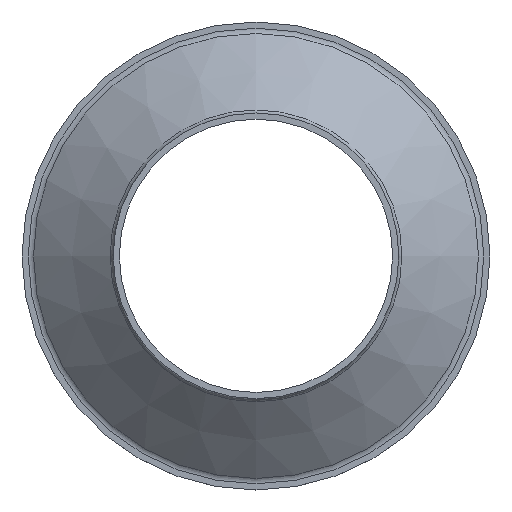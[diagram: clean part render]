
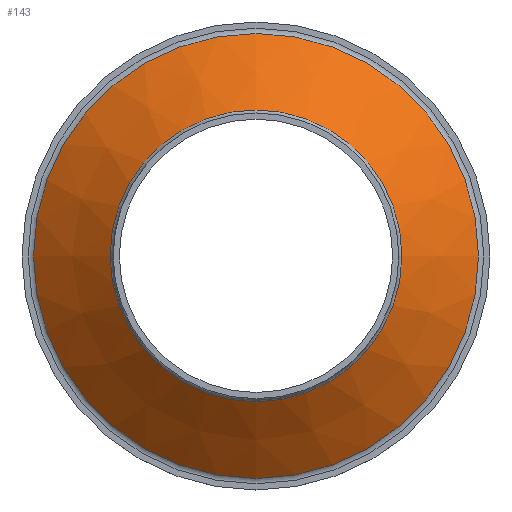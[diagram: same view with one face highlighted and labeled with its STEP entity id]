
A CAD part, top view. The second image highlights one B-rep face of the part: STEP entity #143.
In plain terms, the highlighted conical face has half-angle 50.225 degrees and reference radius 17.61 mm.
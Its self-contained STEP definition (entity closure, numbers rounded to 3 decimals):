
#98=CARTESIAN_POINT('',(26.86,0.,1.531));
#99=VERTEX_POINT('',#98);
#107=CARTESIAN_POINT('',(0.,0.,1.531));
#108=DIRECTION('',(1.,0.,0.));
#109=DIRECTION('',(0.,0.,1.));
#110=AXIS2_PLACEMENT_3D('',#107,#109,#108);
#111=CIRCLE('',#110,26.86);
#112=EDGE_CURVE('',#99,#99,#111,.T.);
#119=CARTESIAN_POINT('',(0.,0.,9.231));
#120=DIRECTION('',(1.,0.,0.));
#121=DIRECTION('',(-0.,-0.,-1.));
#122=AXIS2_PLACEMENT_3D('',#119,#121,#120);
#123=CONICAL_SURFACE('',#122,17.61,0.877);
#124=CARTESIAN_POINT('',(17.61,0.,9.231));
#125=VERTEX_POINT('',#124);
#126=CARTESIAN_POINT('',(26.86,0.,1.531));
#127=DIRECTION('',(-0.769,0.,0.64));
#128=VECTOR('',#127,12.035);
#129=LINE('',#126,#128);
#130=EDGE_CURVE('',#99,#125,#129,.T.);
#131=ORIENTED_EDGE('E3',*,*,#130,.T.);
#132=CARTESIAN_POINT('',(0.,0.,9.231));
#133=DIRECTION('',(1.,0.,-0.));
#134=DIRECTION('',(0.,0.,1.));
#135=AXIS2_PLACEMENT_3D('',#132,#134,#133);
#136=CIRCLE('',#135,17.61);
#137=EDGE_CURVE('',#125,#125,#136,.T.);
#138=ORIENTED_EDGE('E12',*,*,#137,.T.);
#139=ORIENTED_EDGE('E12',*,*,#130,.F.);
#140=ORIENTED_EDGE('E12',*,*,#112,.F.);
#141=EDGE_LOOP('',(#131,#138,#139,#140));
#142=FACE_OUTER_BOUND('',#141,.F.);
#143=ADVANCED_FACE('F5',(#142),#123,.T.);
